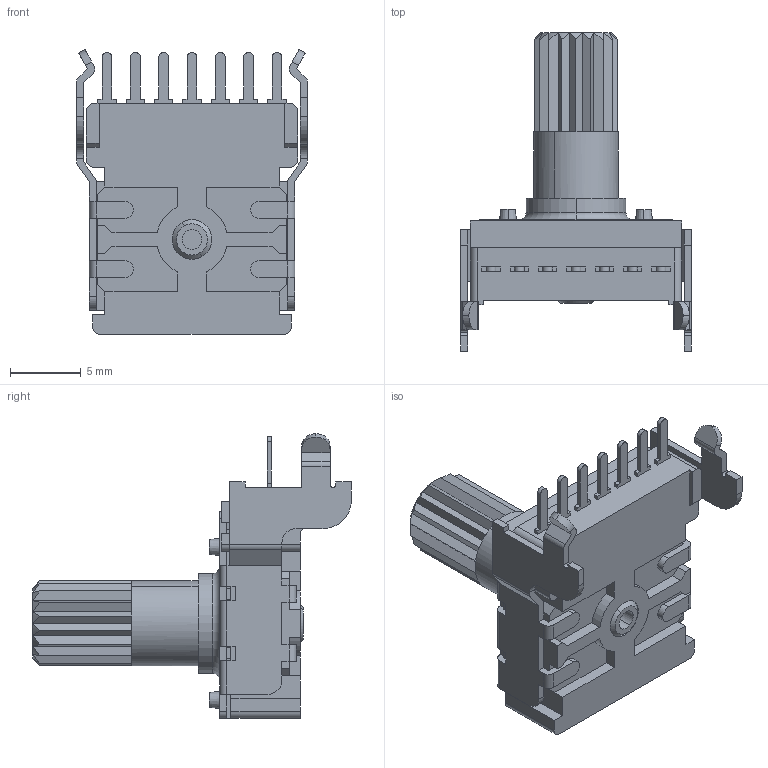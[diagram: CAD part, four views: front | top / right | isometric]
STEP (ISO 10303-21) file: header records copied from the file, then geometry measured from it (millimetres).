
FILE_DESCRIPTION (( 'STEP AP203' ), '1' );
FILE_NAME ('P140KV-Y20.STEP', '2026-09-15T13:23:07', ( '' ), ( '' ), 'SwSTEP 2.0', 'SolidWorks 2026', '' );
FILE_SCHEMA (( 'CONFIG_CONTROL_DESIGN' ));
Length unit declared in the file: millimetre
Products named in the file (7): Housing; P140KV-Y20; KV bracket; KV_housing; H-terminal; Y20; spring_plate
Assembly tree (12 placements, depth 3):
  P140KV-Y20
    KV_housing
      Housing
      H-terminal  x7
    Y20
    spring_plate
    KV bracket
Bounding box: 16.3 x 22.5 x 20.1 mm (x, y, z)
Volume: 1329.6 mm3; surface area: 2702 mm2
Topology: 11 solids, 11 shells, 589 faces, 1563 edges, 998 vertices
Faces by surface type: plane 411, cylinder 140, cone 24, bspline 8, torus 6
Entity records: 17422 total; most frequent: CARTESIAN_POINT 3144, ORIENTED_EDGE 2838, DIRECTION 2735, EDGE_CURVE 1419, LINE 1029, VECTOR 1029, VERTEX_POINT 902, AXIS2_PLACEMENT_3D 853
